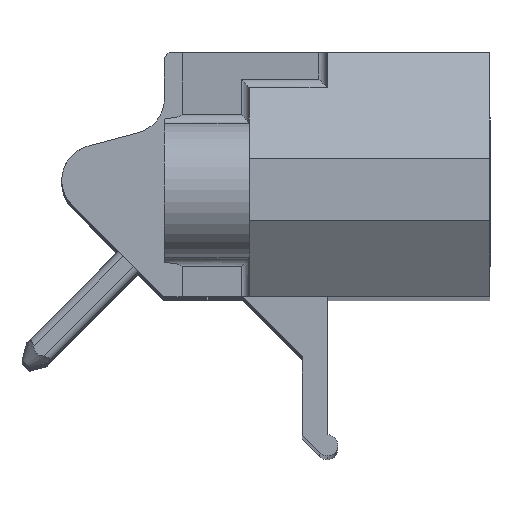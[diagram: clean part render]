
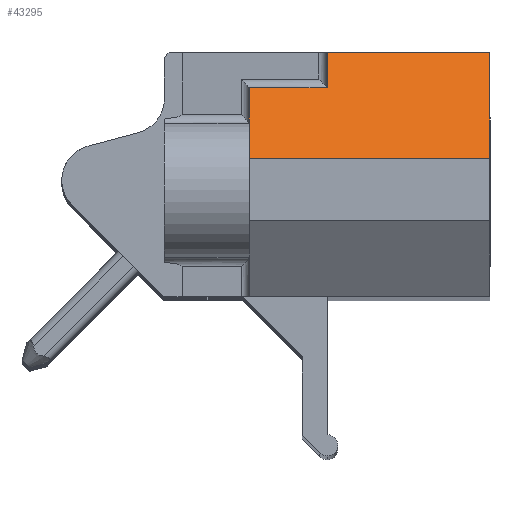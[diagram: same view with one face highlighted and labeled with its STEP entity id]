
A CAD part, top view. The second image highlights one B-rep face of the part: STEP entity #43295.
In plain terms, the highlighted planar face has unit normal (0, 0.574, 0.819).
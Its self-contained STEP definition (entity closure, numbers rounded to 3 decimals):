
#3321 = VERTEX_POINT ( 'NONE', #60221 ) ;
#3327 = VERTEX_POINT ( 'NONE', #60273 ) ;
#3328 = EDGE_CURVE ( 'NONE', #3327, #3321, #60272, .T. ) ;
#7906 = DIRECTION ( 'NONE',  ( 1., 0., 0. ) ) ;
#7907 = VECTOR ( 'NONE', #7906, 1000. ) ;
#7908 = CARTESIAN_POINT ( 'NONE',  ( -4.995, -3.177, 0. ) ) ;
#7909 = LINE ( 'NONE', #7908, #7907 ) ;
#7942 = DIRECTION ( 'NONE',  ( 0., -0.819, 0.574 ) ) ;
#7943 = VECTOR ( 'NONE', #7942, 1000. ) ;
#7944 = CARTESIAN_POINT ( 'NONE',  ( -8.395, -1.677, -1.05 ) ) ;
#7945 = LINE ( 'NONE', #7944, #7943 ) ;
#7947 = CARTESIAN_POINT ( 'NONE',  ( -8.395, -3.177, 0. ) ) ;
#15547 = VERTEX_POINT ( 'NONE', #61073 ) ;
#22505 = EDGE_CURVE ( 'NONE', #22542, #46693, #7909, .T. ) ;
#22542 = VERTEX_POINT ( 'NONE', #7947 ) ;
#22546 = EDGE_CURVE ( 'NONE', #3321, #22542, #7945, .T. ) ;
#26460 = CARTESIAN_POINT ( 'NONE',  ( -1.595, -0.178, -2.1 ) ) ;
#26474 = DIRECTION ( 'NONE',  ( -1., 0., 0. ) ) ;
#26475 = VECTOR ( 'NONE', #26474, 1000. ) ;
#26477 = CARTESIAN_POINT ( 'NONE',  ( -6.095, -0.178, -2.1 ) ) ;
#26479 = LINE ( 'NONE', #26477, #26475 ) ;
#36117 = EDGE_CURVE ( 'NONE', #36123, #15547, #26479, .T. ) ;
#36123 = VERTEX_POINT ( 'NONE', #26460 ) ;
#43295 = ADVANCED_FACE ( 'NONE', ( #45824 ), #45822, .T. ) ;
#43298 = EDGE_LOOP ( 'NONE', ( #43300, #43302, #43304, #43310, #43312, #43314 ) ) ;
#43300 = ORIENTED_EDGE ( 'NONE', *, *, #46691, .T. ) ;
#43302 = ORIENTED_EDGE ( 'NONE', *, *, #36117, .T. ) ;
#43304 = ORIENTED_EDGE ( 'NONE', *, *, #43306, .T. ) ;
#43306 = EDGE_CURVE ( 'NONE', #15547, #3327, #45808, .T. ) ;
#43310 = ORIENTED_EDGE ( 'NONE', *, *, #3328, .T. ) ;
#43312 = ORIENTED_EDGE ( 'NONE', *, *, #22546, .T. ) ;
#43314 = ORIENTED_EDGE ( 'NONE', *, *, #22505, .T. ) ;
#45803 = DIRECTION ( 'NONE',  ( 0., -0.819, 0.574 ) ) ;
#45804 = VECTOR ( 'NONE', #45803, 1000. ) ;
#45806 = CARTESIAN_POINT ( 'NONE',  ( -6.195, -1.677, -1.05 ) ) ;
#45808 = LINE ( 'NONE', #45806, #45804 ) ;
#45812 = DIRECTION ( 'NONE',  ( 0., 0.819, -0.574 ) ) ;
#45814 = DIRECTION ( 'NONE',  ( 0., 0.574, 0.819 ) ) ;
#45816 = CARTESIAN_POINT ( 'NONE',  ( -1.595, -3.177, 0. ) ) ;
#45817 = AXIS2_PLACEMENT_3D ( 'NONE', #45816, #45814, #45812 ) ;
#45822 = PLANE ( 'NONE',  #45817 ) ;
#45824 = FACE_OUTER_BOUND ( 'NONE', #43298, .T. ) ;
#46691 = EDGE_CURVE ( 'NONE', #46693, #36123, #51532, .T. ) ;
#46693 = VERTEX_POINT ( 'NONE', #51524 ) ;
#51524 = CARTESIAN_POINT ( 'NONE',  ( -1.595, -3.177, 0. ) ) ;
#51527 = DIRECTION ( 'NONE',  ( 0., 0.819, -0.574 ) ) ;
#51528 = VECTOR ( 'NONE', #51527, 1000. ) ;
#51530 = CARTESIAN_POINT ( 'NONE',  ( -1.595, -3.177, 0. ) ) ;
#51532 = LINE ( 'NONE', #51530, #51528 ) ;
#60221 = CARTESIAN_POINT ( 'NONE',  ( -8.395, -1.178, -1.4 ) ) ;
#60269 = DIRECTION ( 'NONE',  ( -1., 0., 0. ) ) ;
#60270 = VECTOR ( 'NONE', #60269, 1000. ) ;
#60271 = CARTESIAN_POINT ( 'NONE',  ( -4.995, -1.178, -1.4 ) ) ;
#60272 = LINE ( 'NONE', #60271, #60270 ) ;
#60273 = CARTESIAN_POINT ( 'NONE',  ( -6.195, -1.178, -1.4 ) ) ;
#61073 = CARTESIAN_POINT ( 'NONE',  ( -6.195, -0.178, -2.1 ) ) ;
